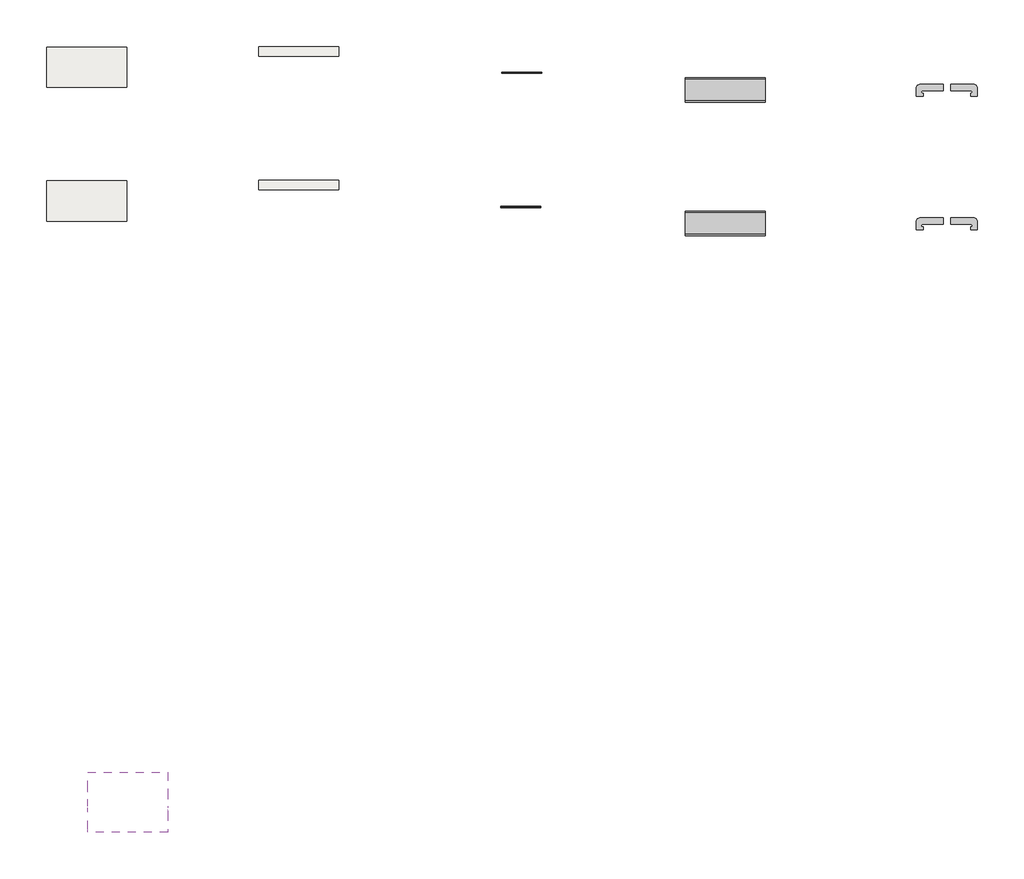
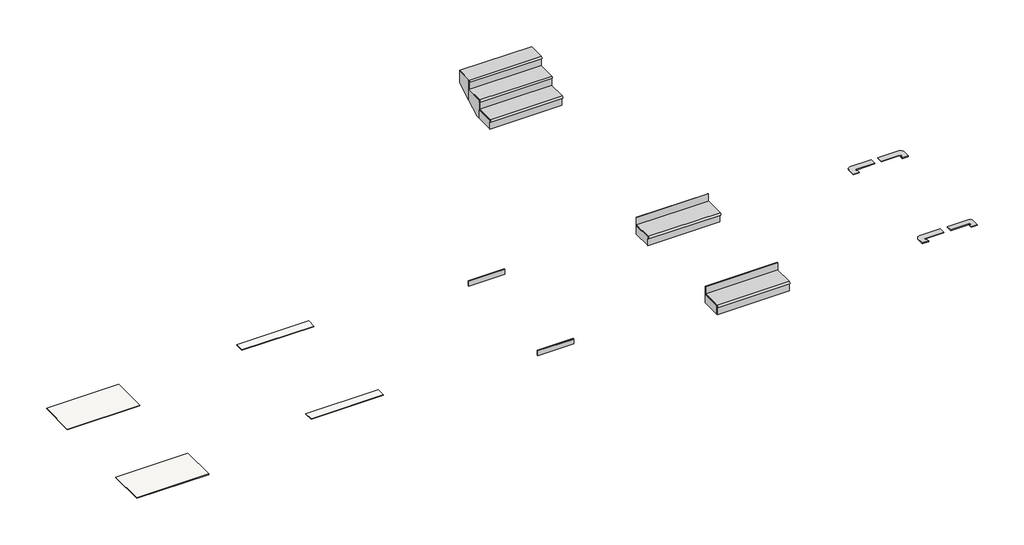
# One storey: 6 proxies, 4 slabs, 3 stair flights, 2 walls.
"""IFC4 building model written with IfcOpenShell, lengths in millimetres."""

from ifc_helpers import new_model, si_unit, point, frame, frame_2d, origin, place, context, project, spatial, polyline, circle_curve, trimmed, segment, composite_curve, outline, extrude, faceted_brep, transform, mapped, element, save
from components import generic_models_c79c0e69, generic_models_9a913470

model = new_model("IFC4")

# Units and contexts
model_context = context("Model", 3, world=origin())
ifc_project = project(units=[si_unit("LENGTHUNIT", "METRE", prefix="MILLI")], contexts=[model_context])

# Site, building, storey
site = spatial("IfcSite", under=ifc_project)
building = spatial("IfcBuilding", under=site)
storey = spatial("IfcBuildingStorey", under=building, Name="EXAGRES_OROBICO Series_Catalogue", Elevation=22000.0)

# Proxies
placement = place(None, origin())
element("IfcBuildingElementProxy", 1, Name="Exagres_Orobico_Taupe_Skirting_9x60", ObjectType="Exagres_Orobico_Taupe_Skirting_9x60", at=placement, inside=storey, context=model_context, shape_type="SweptSolid", body=[
    extrude(outline(polyline([(322.5338201, 22090.0), (322.5338201, 22000.0), (307.5338201, 22000.0), (307.5338201, 22085.0), (312.5338201, 22090.0), (322.5338201, 22090.0)])), frame((5748.2634227, 0.0, 0.0), z_axis=(1.0, 0.0, 0.0), x_axis=(0.0, 1.0, 0.0)), (0.0, 0.0, 1.0), 600.0),
])
element("IfcBuildingElementProxy", 2, Name="Exagres_Orobico_Gris_Skirting_9x60", ObjectType="Exagres_Orobico_Gris_Skirting_9x60", at=placement, inside=storey, context=model_context, shape_type="SweptSolid", body=[
    extrude(outline(polyline([(-1690.278305, 22090.0), (-1690.278305, 22000.0), (-1705.278305, 22000.0), (-1705.278305, 22085.0), (-1700.278305, 22090.0), (-1690.278305, 22090.0)])), frame((5733.1339239, 0.0, 0.0), z_axis=(1.0, 0.0, 0.0), x_axis=(0.0, 1.0, 0.0)), (0.0, 0.0, 1.0), 600.0),
])
generic_models_shape = generic_models_c79c0e69(model_context)
element("IfcBuildingElementProxy", 3, Name="EXAGRES - Step Skirting ML 39.5x17.5 : Exagres_Orobico_Taupe_Left", ObjectType="EXAGRES - Step Skirting ML 39.5x17.5 : Exagres_Orobico_Taupe_Left", at=placement, inside=storey, context=model_context, shape_type="MappedRepresentation", body=[
    mapped(generic_models_shape, transform((12052.0707994, 44.4826442, 22000.0), x_axis=(1.0, 0.0, 0.0), y_axis=(0.0, 1.0, 0.0), z_axis=(0.0, 0.0, 1.0))),
])
element("IfcBuildingElementProxy", 4, Name="EXAGRES - Step Skirting ML 39.5x17.5 : Exagres_Orobico_Gris_Left", ObjectType="EXAGRES - Step Skirting ML 39.5x17.5 : Exagres_Orobico_Gris_Left", at=placement, inside=storey, context=model_context, shape_type="MappedRepresentation", body=[
    mapped(generic_models_shape, transform((12052.0707994, -1955.5173558, 22000.0), x_axis=(1.0, 0.0, 0.0), y_axis=(0.0, 1.0, 0.0), z_axis=(0.0, 0.0, 1.0))),
])
generic_models_2_shape = generic_models_9a913470(model_context)
element("IfcBuildingElementProxy", 5, Name="EXAGRES - Step Skirting ML 39.5x17.5 : Exagres_Orobico_Taupe_Right", ObjectType="EXAGRES - Step Skirting ML 39.5x17.5 : Exagres_Orobico_Taupe_Right", at=placement, inside=storey, context=model_context, shape_type="MappedRepresentation", body=[
    mapped(generic_models_2_shape, transform((12772.0707994, 44.4826442, 22000.0), x_axis=(-1.0, 0.0, 0.0), y_axis=(0.0, -1.0, 0.0), z_axis=(0.0, 0.0, 1.0))),
])
element("IfcBuildingElementProxy", 6, Name="EXAGRES - Step Skirting ML 39.5x17.5 : Exagres_Orobico_Gris_Right", ObjectType="EXAGRES - Step Skirting ML 39.5x17.5 : Exagres_Orobico_Gris_Right", at=placement, inside=storey, context=model_context, shape_type="MappedRepresentation", body=[
    mapped(generic_models_2_shape, transform((12772.0707994, -1955.5173558, 22000.0), x_axis=(-1.0, 0.0, 0.0), y_axis=(0.0, -1.0, 0.0), z_axis=(0.0, 0.0, 1.0))),
])

# Slabs
element("IfcSlab", 7, ObjectType="Exagres_Orobico_Taupe_Base_60x120_R9_Rect", at=placement, inside=storey, context=model_context, shape_type="SweptSolid", body=[
    extrude(outline(polyline([(133.202085, 695.0536056), (133.202085, 93.0536056), (-1068.797915, 93.0536056), (-1068.797915, 695.0536056), (133.202085, 695.0536056)])), frame((0.0, 0.0, 21990.0), z_axis=(0.0, 0.0, 1.0), x_axis=(1.0, 0.0, 0.0)), (0.0, 0.0, 1.0), 10.0),
])
element("IfcSlab", 8, ObjectType="Exagres_Orobico_Taupe_Base_14,5x120_R9_Rect", at=placement, inside=storey, context=model_context, shape_type="SweptSolid", body=[
    extrude(outline(polyline([(3308.439511, 705.6668743), (3308.439511, 558.6668743), (2106.439511, 558.6668743), (2106.439511, 705.6668743), (3308.439511, 705.6668743)])), frame((0.0, 0.0, 21990.0), z_axis=(0.0, 0.0, 1.0), x_axis=(1.0, 0.0, 0.0)), (0.0, 0.0, 1.0), 10.0),
])
element("IfcSlab", 9, ObjectType="Exagres_Orobico_Gris_Base_60x120_R9_Rect", at=placement, inside=storey, context=model_context, shape_type="SweptSolid", body=[
    extrude(outline(polyline([(133.202085, -1304.9463944), (133.202085, -1906.9463944), (-1068.797915, -1906.9463944), (-1068.797915, -1304.9463944), (133.202085, -1304.9463944)])), frame((0.0, 0.0, 21990.0), z_axis=(0.0, 0.0, 1.0), x_axis=(1.0, 0.0, 0.0)), (0.0, 0.0, 1.0), 10.0),
])
element("IfcSlab", 10, ObjectType="Exagres_Orobico_Gris_Base_14,5x120_R9_Rect", at=placement, inside=storey, context=model_context, shape_type="SweptSolid", body=[
    extrude(outline(polyline([(3308.439511, -1294.3331257), (3308.439511, -1441.3331257), (2106.439511, -1441.3331257), (2106.439511, -1294.3331257), (3308.439511, -1294.3331257)])), frame((0.0, 0.0, 21990.0), z_axis=(0.0, 0.0, 1.0), x_axis=(1.0, 0.0, 0.0)), (0.0, 0.0, 1.0), 10.0),
])

# Stair flights
element("IfcStairFlight", 11, ObjectType="EXAGRES_ML - Orobico Taupe R9", at=placement, inside=storey, context=model_context, shape_type="SweptSolid", body=[
    extrude(outline(polyline([(8493.0707994, -93.5173558), (8493.0707994, 236.4826442), (9693.0707994, 236.4826442), (9693.0707994, -93.5173558), (8493.0707994, -93.5173558)])), frame((0.0, 0.0, 22000.0), z_axis=(0.0, 0.0, 1.0), x_axis=(1.0, 0.0, 0.0)), (0.0, 0.0, 1.0), 151.6666667),
    extrude(outline(composite_curve([segment(polyline([(-107.5173558, 22166.6666667), (236.4826442, 22166.6666667), (236.4826442, 22151.6666667), (-79.6078069, 22151.6666667), (-79.6078069, 22151.1666667), (-83.5173558, 22151.1666667), (-83.5173558, 22151.6666667), (-85.1078069, 22151.6666667), (-85.1078069, 22152.1666667), (-87.5173558, 22152.1666667), (-87.5173558, 22151.1666667), (-94.5173558, 22151.1666667), (-94.5173558, 22144.1666667), (-95.5173558, 22144.1666667), (-95.5173558, 22138.1666667), (-94.5173558, 22138.1666667), (-94.5173558, 22126.6666667), (-107.5173558, 22126.6666667)]), True, "CONTINUOUS"), segment(trimmed(circle_curve(frame_2d((-107.5173558, 22146.6666667)), 20.0), [point((-107.5173558, 22126.6666667))], [point((-107.5173558, 22166.6666667))], False, "CARTESIAN"), True, "CONTINUOUS")], self_intersect=False)), frame((8493.0707994, 0.0, 0.0), z_axis=(1.0, 0.0, 0.0), x_axis=(0.0, 1.0, 0.0)), (0.0, 0.0, 1.0), 1200.0),
    extrude(outline(polyline([(9693.0707994, -93.5173558), (9693.0707994, -103.5173558), (8493.0707994, -103.5173558), (8493.0707994, -93.5173558), (9693.0707994, -93.5173558)])), frame((0.0, 0.0, 22000.0), z_axis=(0.0, 0.0, 1.0), x_axis=(1.0, 0.0, 0.0)), (0.0, 0.0, 1.0), 126.6666667),
    extrude(outline(polyline([(9693.0707994, 236.4826442), (9693.0707994, 226.4826442), (8493.0707994, 226.4826442), (8493.0707994, 236.4826442), (9693.0707994, 236.4826442)])), frame((0.0, 0.0, 22166.6666667), z_axis=(0.0, 0.0, 1.0), x_axis=(1.0, 0.0, 0.0)), (0.0, 0.0, 1.0), 126.6666667),
])
element("IfcStairFlight", 12, ObjectType="EXAGRES_ML - Orobico Gris R9", at=placement, inside=storey, context=model_context, shape_type="SolidModel", body=[
    faceted_brep([(-451.9029047, -10727.6587674, 33972.3684211), (-451.9029047, -11027.6587674, 33972.3684211), (748.0970953, -11027.6587674, 33972.3684211), (748.0970953, -10727.6587674, 33972.3684211), (-451.9029047, -10727.6587674, 33820.0), (-451.9029047, -11027.6587674, 33820.0), (748.0970953, -11027.6587674, 33820.0), (748.0970953, -10727.6587674, 33820.0), (-451.9029047, -10427.6587674, 34139.7368421), (-451.9029047, -10727.6587674, 34139.7368421), (748.0970953, -10727.6587674, 34139.7368421), (748.0970953, -10427.6587674, 34139.7368421), (-451.9029047, -10427.6587674, 33956.5213642), (-451.9029047, -10672.3668729, 33820.0), (748.0970953, -10672.3668729, 33820.0), (748.0970953, -10427.6587674, 33956.5213642), (-451.9029047, -10161.6587674, 34104.9213642), (748.0970953, -10161.6587674, 34104.9213642), (-451.9029047, -10161.6587674, 34307.1052632), (-451.9029047, -10427.6587674, 34307.1052632), (748.0970953, -10427.6587674, 34307.1052632), (748.0970953, -10161.6587674, 34307.1052632)], [[[0, 1, 2, 3]], [[1, 0, 4, 5]], [[2, 1, 5, 6]], [[3, 2, 6, 7]], [[8, 9, 10, 11]], [[4, 0, 9, 8, 12, 13]], [[0, 3, 10, 9]], [[3, 7, 14, 15, 11, 10]], [[5, 4, 13, 14, 7, 6]], [[14, 13, 12, 16, 17, 15]], [[18, 19, 20, 21]], [[19, 18, 16, 12, 8]], [[8, 11, 20, 19]], [[21, 20, 11, 15, 17]], [[18, 21, 17, 16]]]),
    extrude(outline(composite_curve([segment(polyline([(-11041.6587674, 33987.3684211), (-10727.6587674, 33987.3684211), (-10727.6587674, 33972.3684211), (-11013.7492185, 33972.3684211), (-11013.7492185, 33971.8684211), (-11017.6587674, 33971.8684211), (-11017.6587674, 33972.3684211), (-11019.2492185, 33972.3684211), (-11019.2492185, 33972.8684211), (-11021.6587674, 33972.8684211), (-11021.6587674, 33971.8684211), (-11028.6587674, 33971.8684211), (-11028.6587674, 33964.8684211), (-11029.6587674, 33964.8684211), (-11029.6587674, 33958.8684211), (-11028.6587674, 33958.8684211), (-11028.6587674, 33947.3684211), (-11041.6587674, 33947.3684211)]), True, "CONTINUOUS"), segment(trimmed(circle_curve(frame_2d((-11041.6587674, 33967.3684211)), 20.0), [point((-11041.6587674, 33947.3684211))], [point((-11041.6587674, 33987.3684211))], False, "CARTESIAN"), True, "CONTINUOUS")], self_intersect=False)), frame((-451.9029047, 0.0, 0.0), z_axis=(1.0, 0.0, 0.0), x_axis=(0.0, 1.0, 0.0)), (0.0, 0.0, 1.0), 1200.0),
    extrude(outline(polyline([(748.0970953, -11027.6587674), (748.0970953, -11037.6587674), (-451.9029047, -11037.6587674), (-451.9029047, -11027.6587674), (748.0970953, -11027.6587674)])), frame((0.0, 0.0, 33820.0), z_axis=(0.0, 0.0, 1.0), x_axis=(1.0, 0.0, 0.0)), (0.0, 0.0, 1.0), 127.3684211),
    extrude(outline(polyline([(748.0970953, -10727.6587674), (748.0970953, -10737.6587674), (-451.9029047, -10737.6587674), (-451.9029047, -10727.6587674), (748.0970953, -10727.6587674)])), frame((0.0, 0.0, 33987.3684211), z_axis=(0.0, 0.0, 1.0), x_axis=(1.0, 0.0, 0.0)), (0.0, 0.0, 1.0), 127.3684211),
    extrude(outline(composite_curve([segment(polyline([(-10741.6587674, 34154.7368421), (-10427.6587674, 34154.7368421), (-10427.6587674, 34139.7368421), (-10713.7492185, 34139.7368421), (-10713.7492185, 34139.2368421), (-10717.6587674, 34139.2368421), (-10717.6587674, 34139.7368421), (-10719.2492185, 34139.7368421), (-10719.2492185, 34140.2368421), (-10721.6587674, 34140.2368421), (-10721.6587674, 34139.2368421), (-10728.6587674, 34139.2368421), (-10728.6587674, 34132.2368421), (-10729.6587674, 34132.2368421), (-10729.6587674, 34126.2368421), (-10728.6587674, 34126.2368421), (-10728.6587674, 34114.7368421), (-10741.6587674, 34114.7368421)]), True, "CONTINUOUS"), segment(trimmed(circle_curve(frame_2d((-10741.6587674, 34134.7368421)), 20.0), [point((-10741.6587674, 34114.7368421))], [point((-10741.6587674, 34154.7368421))], False, "CARTESIAN"), True, "CONTINUOUS")], self_intersect=False)), frame((-451.9029047, 0.0, 0.0), z_axis=(1.0, 0.0, 0.0), x_axis=(0.0, 1.0, 0.0)), (0.0, 0.0, 1.0), 1200.0),
    extrude(outline(polyline([(748.0970953, -10427.6587674), (748.0970953, -10437.6587674), (-451.9029047, -10437.6587674), (-451.9029047, -10427.6587674), (748.0970953, -10427.6587674)])), frame((0.0, 0.0, 34154.7368421), z_axis=(0.0, 0.0, 1.0), x_axis=(1.0, 0.0, 0.0)), (0.0, 0.0, 1.0), 127.3684211),
    extrude(outline(composite_curve([segment(polyline([(-10441.6587674, 34322.1052632), (-10161.6587674, 34322.1052632), (-10161.6587674, 34307.1052632), (-10413.7492185, 34307.1052632), (-10413.7492185, 34306.6052632), (-10417.6587674, 34306.6052632), (-10417.6587674, 34307.1052632), (-10419.2492185, 34307.1052632), (-10419.2492185, 34307.6052632), (-10421.6587674, 34307.6052632), (-10421.6587674, 34306.6052632), (-10428.6587674, 34306.6052632), (-10428.6587674, 34299.6052632), (-10429.6587674, 34299.6052632), (-10429.6587674, 34293.6052632), (-10428.6587674, 34293.6052632), (-10428.6587674, 34282.1052632), (-10441.6587674, 34282.1052632)]), True, "CONTINUOUS"), segment(trimmed(circle_curve(frame_2d((-10441.6587674, 34302.1052632)), 20.0), [point((-10441.6587674, 34282.1052632))], [point((-10441.6587674, 34322.1052632))], False, "CARTESIAN"), True, "CONTINUOUS")], self_intersect=False)), frame((-451.9029047, 0.0, 0.0), z_axis=(1.0, 0.0, 0.0), x_axis=(0.0, 1.0, 0.0)), (0.0, 0.0, 1.0), 1200.0),
])
element("IfcStairFlight", 13, ObjectType="EXAGRES_ML - Orobico Gris R9", at=placement, inside=storey, context=model_context, shape_type="SweptSolid", body=[
    extrude(outline(polyline([(8493.0707994, -2093.5173558), (8493.0707994, -1763.5173558), (9693.0707994, -1763.5173558), (9693.0707994, -2093.5173558), (8493.0707994, -2093.5173558)])), frame((0.0, 0.0, 22000.0), z_axis=(0.0, 0.0, 1.0), x_axis=(1.0, 0.0, 0.0)), (0.0, 0.0, 1.0), 151.6666667),
    extrude(outline(composite_curve([segment(polyline([(-2107.5173558, 22166.6666667), (-1763.5173558, 22166.6666667), (-1763.5173558, 22151.6666667), (-2079.6078069, 22151.6666667), (-2079.6078069, 22151.1666667), (-2083.5173558, 22151.1666667), (-2083.5173558, 22151.6666667), (-2085.1078069, 22151.6666667), (-2085.1078069, 22152.1666667), (-2087.5173558, 22152.1666667), (-2087.5173558, 22151.1666667), (-2094.5173558, 22151.1666667), (-2094.5173558, 22144.1666667), (-2095.5173558, 22144.1666667), (-2095.5173558, 22138.1666667), (-2094.5173558, 22138.1666667), (-2094.5173558, 22126.6666667), (-2107.5173558, 22126.6666667)]), True, "CONTINUOUS"), segment(trimmed(circle_curve(frame_2d((-2107.5173558, 22146.6666667)), 20.0), [point((-2107.5173558, 22126.6666667))], [point((-2107.5173558, 22166.6666667))], False, "CARTESIAN"), True, "CONTINUOUS")], self_intersect=False)), frame((8493.0707994, 0.0, 0.0), z_axis=(1.0, 0.0, 0.0), x_axis=(0.0, 1.0, 0.0)), (0.0, 0.0, 1.0), 1200.0),
    extrude(outline(polyline([(9693.0707994, -2093.5173558), (9693.0707994, -2103.5173558), (8493.0707994, -2103.5173558), (8493.0707994, -2093.5173558), (9693.0707994, -2093.5173558)])), frame((0.0, 0.0, 22000.0), z_axis=(0.0, 0.0, 1.0), x_axis=(1.0, 0.0, 0.0)), (0.0, 0.0, 1.0), 126.6666667),
    extrude(outline(polyline([(9693.0707994, -1763.5173558), (9693.0707994, -1773.5173558), (8493.0707994, -1773.5173558), (8493.0707994, -1763.5173558), (9693.0707994, -1763.5173558)])), frame((0.0, 0.0, 22166.6666667), z_axis=(0.0, 0.0, 1.0), x_axis=(1.0, 0.0, 0.0)), (0.0, 0.0, 1.0), 126.6666667),
])

# Walls
element("IfcWall", 14, ObjectType="Muro básico:muro", at=placement, inside=storey, context=model_context, shape_type="SweptSolid", body=[
    extrude(outline(polyline([(6348.2634227, 322.5338201), (5748.2634227, 322.5338201), (5748.2634227, 323.5338201), (6348.2634227, 323.5338201), (6348.2634227, 322.5338201)])), frame((0.0, 0.0, 22000.0), z_axis=(0.0, 0.0, 1.0), x_axis=(1.0, 0.0, 0.0)), (0.0, 0.0, 1.0), 75.0),
])
element("IfcWall", 15, ObjectType="Muro básico:muro", at=placement, inside=storey, context=model_context, shape_type="SweptSolid", body=[
    extrude(outline(polyline([(6333.1339239, -1690.278305), (5733.1339239, -1690.278305), (5733.1339239, -1689.278305), (6333.1339239, -1689.278305), (6333.1339239, -1690.278305)])), frame((0.0, 0.0, 22000.0), z_axis=(0.0, 0.0, 1.0), x_axis=(1.0, 0.0, 0.0)), (0.0, 0.0, 1.0), 75.0),
])

save(model, "model.ifc")
